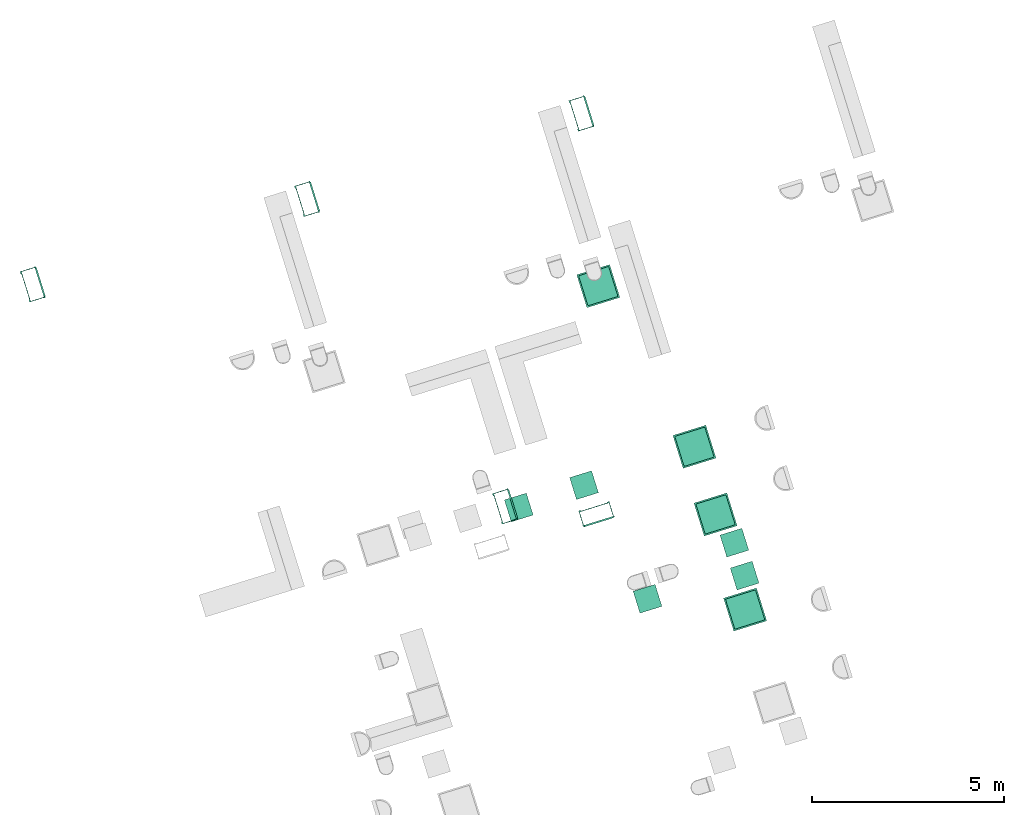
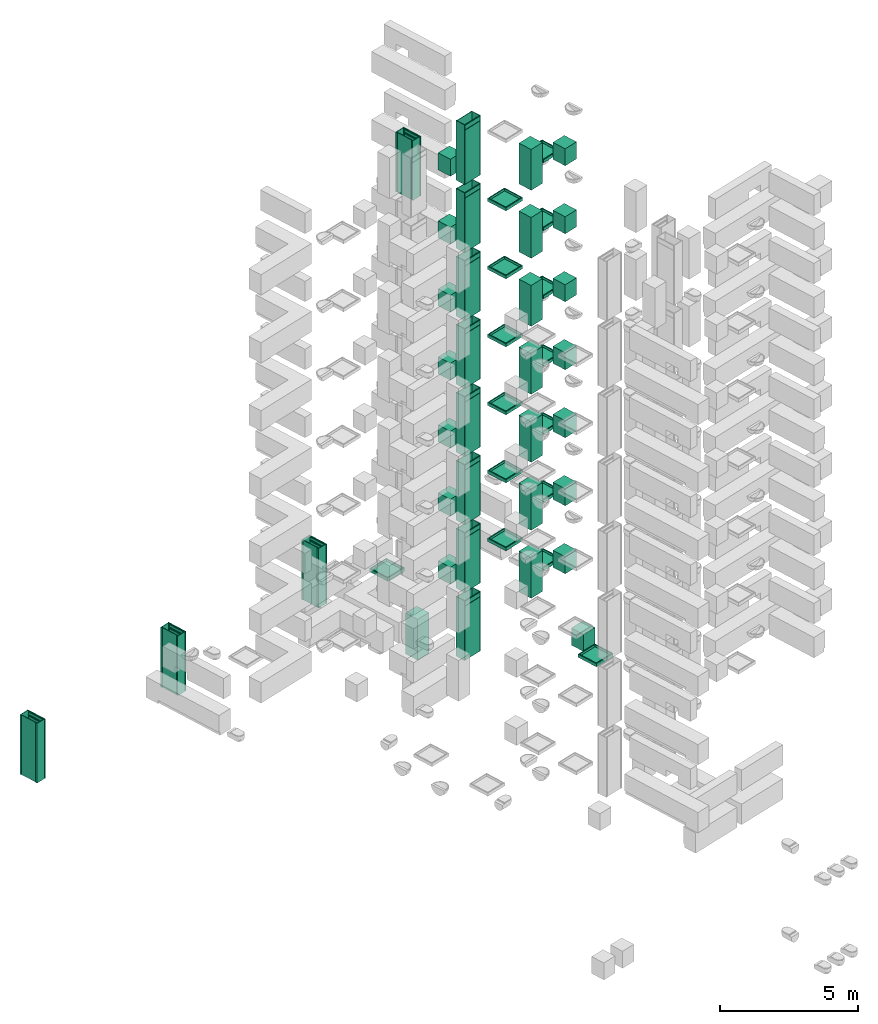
# Not in any storey, part 4 of 17: 15 electric appliances, 15 sanitary terminals, 12 distribution chamber elements, 8 boilers.
"""IFC4 model written with IfcOpenShell, lengths in metres."""

from ifc_helpers import new_model, entity, si_unit, converted_unit, direction, frame, origin, place, context, subcontext, project, indexed_curve, outline, extrude, polygons, source, transform, mapped, material, type_object, type_shapes, element, save


model = new_model("IFC4")

# Units and contexts
model_context = context("Model", 3, precision=1e-05, world=origin(), true_north=direction((6.12323399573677e-17, 1.0)))
body_context = subcontext(model_context, "Body", "Model", "MODEL_VIEW")
ifc_project = project(units=[si_unit("LENGTHUNIT", "METRE"), si_unit("AREAUNIT", "SQUARE_METRE"), converted_unit("PLANEANGLEUNIT", "DEGREE", entity("IfcPlaneAngleMeasure", 0.0174532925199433), si_unit("PLANEANGLEUNIT", "RADIAN"), dimensions=[0, 0, 0, 0, 0, 0, 0]), si_unit("VOLUMEUNIT", "CUBIC_METRE")], contexts=[model_context])

# Distribution chamber elements
ifc_material = material(Name="<Unnamed>")
distribution_chamber_element_type = type_object("IfcDistributionChamberElementType", Name="NLRS_61_GM_UN_Jonka meterkast_gen:Jonka_kast", PredefinedType="METERCHAMBER", material=ifc_material)
shared_shape_1 = source(origin(), body_context, "Body", "SweptSolid", [
    extrude(outline(indexed_curve([(-0.0230000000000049, -0.00925000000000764), (-0.00900000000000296, -0.00925000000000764), (-0.00900000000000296, 0.000749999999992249), (0.00899999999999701, 0.000749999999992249), (0.00899999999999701, -0.00925000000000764), (0.023000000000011, -0.00925000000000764), (0.023000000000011, 0.0177500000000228), (-0.0230000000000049, 0.0177500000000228), (-0.0230000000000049, -0.00925000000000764)], self_intersect=False)), frame((-0.408999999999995, 0.409249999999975, 0.0)), (0.0, 0.0, 1.0), 2.63),
    extrude(outline(indexed_curve([(-0.0230000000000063, -0.00925000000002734), (-0.00900000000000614, -0.00925000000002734), (-0.00900000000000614, 0.00074999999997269), (0.00900000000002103, 0.00074999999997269), (0.00900000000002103, -0.00925000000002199), (0.0229999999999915, -0.00925000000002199), (0.0229999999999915, 0.0177500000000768), (-0.0230000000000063, 0.0177500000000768), (-0.0230000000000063, -0.00925000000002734)], self_intersect=False)), frame((0.409000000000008, 0.409249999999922, 0.0)), (0.0, 0.0, 1.0), 2.63),
    extrude(outline(indexed_curve([(-0.00899999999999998, -0.204999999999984), (0.00899999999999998, -0.204999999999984), (0.00899999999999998, 0.204999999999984), (-0.00899999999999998, 0.204999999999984), (-0.00899999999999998, -0.204999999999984)], self_intersect=False)), frame((-0.408999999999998, 0.204999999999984, 0.0)), (0.0, 0.0, 1.0), 2.63),
    extrude(outline(indexed_curve([(-0.00900000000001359, -0.204999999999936), (0.00900000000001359, -0.204999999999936), (0.00900000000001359, 0.204999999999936), (-0.00900000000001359, 0.204999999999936), (-0.00900000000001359, -0.204999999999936)], self_intersect=False)), frame((0.409000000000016, 0.204999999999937, 0.0)), (0.0, 0.0, 1.0), 2.63),
    extrude(outline(indexed_curve([(-0.00799999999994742, -0.399999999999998), (0.00799999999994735, -0.399999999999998), (0.00799999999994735, 0.399999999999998), (-0.00799999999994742, 0.399999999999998), (-0.00799999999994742, -0.399999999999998)], self_intersect=False)), frame((0.0, 0.434999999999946, 0.00999999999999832), z_axis=(0.0, 0.0, 1.0), x_axis=(0.0, 1.0, 0.0)), (0.0, 0.0, 1.0), 2.39),
    extrude(outline(indexed_curve([(-0.0090000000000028, -0.400000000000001), (0.00899999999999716, -0.400000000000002), (0.0090000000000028, 0.400000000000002), (-0.00899999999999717, 0.400000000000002), (-0.0090000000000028, -0.400000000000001)], self_intersect=False)), frame((0.0, 0.0280000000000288, 0.0), z_axis=(0.0, 0.0, 1.0), x_axis=(0.0, 1.0, 0.0)), (0.0, 0.0, 1.0), 2.63),
    extrude(outline(indexed_curve([(-0.0095, -0.023), (0.0095, -0.023), (0.0095, 0.023), (-0.0095, 0.023), (-0.0095, -0.023)], self_intersect=False)), frame((-0.376999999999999, 0.0095, 0.0), z_axis=(0.0, 0.0, 1.0), x_axis=(0.0, 1.0, 0.0)), (0.0, 0.0, 1.0), 2.63),
    extrude(outline(indexed_curve([(-0.0095, -0.022999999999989), (0.0095, -0.022999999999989), (0.0095, 0.022999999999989), (-0.0095, 0.022999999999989), (-0.0095, -0.022999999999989)], self_intersect=False)), frame((0.377000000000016, 0.00950000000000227, 0.0), z_axis=(0.0, 0.0, 1.0), x_axis=(0.0, 1.0, 0.0)), (0.0, 0.0, 1.0), 2.63),
    extrude(outline(indexed_curve([(-0.00799999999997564, -0.399999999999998), (0.00799999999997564, -0.399999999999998), (0.00799999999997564, 0.399999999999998), (-0.00799999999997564, 0.399999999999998), (-0.00799999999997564, -0.399999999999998)], self_intersect=False)), frame((0.0, 0.434999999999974, 2.41800000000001), z_axis=(0.0, 0.0, 1.0), x_axis=(0.0, 1.0, 0.0)), (0.0, 0.0, 1.0), 0.197000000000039),
    extrude(outline(indexed_curve([(-0.0177500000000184, -0.0230000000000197), (0.00925000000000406, -0.0230000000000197), (0.00925000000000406, -0.00899999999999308), (-0.00074999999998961, -0.00899999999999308), (-0.00074999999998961, 0.00900000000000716), (0.00925000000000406, 0.00900000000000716), (0.00925000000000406, 0.0230000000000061), (-0.0177500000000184, 0.0230000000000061), (-0.0177500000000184, -0.0230000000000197)], self_intersect=False)), frame((-0.386, 0.409249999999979, 2.59200000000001), z_axis=(1.0, 0.0, 0.0), x_axis=(0.0, -1.0, 0.0)), (0.0, 0.0, 1.0), 0.772),
    extrude(outline(indexed_curve([(-0.0177500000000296, -0.0229999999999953), (0.00925000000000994, -0.0229999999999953), (0.00925000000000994, -0.00899999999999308), (-0.000749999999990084, -0.00899999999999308), (-0.000749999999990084, 0.00900000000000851), (0.00925000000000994, 0.00900000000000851), (0.00925000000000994, 0.0229999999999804), (-0.0177500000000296, 0.0229999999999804), (-0.0177500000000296, -0.0229999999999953)], self_intersect=False)), frame((-0.386, 0.40924999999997, 2.40900000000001), z_axis=(1.0, 0.0, 0.0), x_axis=(0.0, -1.0, 0.0)), (0.0, 0.0, 1.0), 0.772),
    extrude(outline(indexed_curve([(-0.0177500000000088, -0.0230000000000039), (0.00925000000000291, -0.0230000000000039), (0.00925000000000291, -0.00899999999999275), (-0.000749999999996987, -0.00899999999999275), (-0.000749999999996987, 0.00899999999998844), (0.00925000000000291, 0.00899999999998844), (0.00925000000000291, 0.0230000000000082), (-0.0177500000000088, 0.0230000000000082), (-0.0177500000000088, -0.0230000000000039)], self_intersect=False)), frame((-0.386, 0.409249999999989, 0.0229999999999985), z_axis=(1.0, 0.0, 0.0), x_axis=(0.0, -1.0, 0.0)), (0.0, 0.0, 1.0), 0.772),
])
type_shapes(distribution_chamber_element_type, [shared_shape_1])
placement_1 = place(None, frame((13.1347999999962, 11.9886000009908, 0.0), z_axis=(0.0, 0.0, 1.0), x_axis=(0.954770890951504, 0.297342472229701, 0.0)))
placement_2 = place(placement_1, origin())
placement_3 = place(placement_2, origin())
placement_4 = place(placement_3, origin())
distribution_chamber_element_1_placement = place(placement_4, frame((57.6250000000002, 31.9569999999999, 0.0), z_axis=(0.0, 0.0, 1.0), x_axis=(0.0, -1.0, 0.0)))
element("IfcDistributionChamberElement", 1, at=distribution_chamber_element_1_placement, type_object=distribution_chamber_element_type, material=ifc_material, Name="NLRS_61_GM_UN_Jonka meterkast_gen:Jonka_kast", ObjectType="NLRS_61_GM_UN_Jonka meterkast_gen:Jonka_kast", PredefinedType="METERCHAMBER", context=body_context, shape_type="MappedRepresentation", body=[
    mapped(shared_shape_1, transform((0.0, 0.0, 0.0), scale=1.0)),
])
placement_5 = place(placement_3, origin())
distribution_chamber_element_2_placement = place(placement_5, frame((65.1250000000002, 31.9569999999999, 0.0), z_axis=(0.0, 0.0, 1.0), x_axis=(0.0, -1.0, 0.0)))
element("IfcDistributionChamberElement", 2, at=distribution_chamber_element_2_placement, type_object=distribution_chamber_element_type, material=ifc_material, Name="NLRS_61_GM_UN_Jonka meterkast_gen:Jonka_kast", ObjectType="NLRS_61_GM_UN_Jonka meterkast_gen:Jonka_kast", PredefinedType="METERCHAMBER", context=body_context, shape_type="MappedRepresentation", body=[
    mapped(shared_shape_1, transform((0.0, 0.0, 0.0), scale=1.0)),
])
placement_6 = place(placement_3, origin())
distribution_chamber_element_3_placement = place(placement_6, frame((72.6250000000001, 31.9569999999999, 0.0), z_axis=(0.0, 0.0, 1.0), x_axis=(0.0, -1.0, 0.0)))
element("IfcDistributionChamberElement", 3, at=distribution_chamber_element_3_placement, type_object=distribution_chamber_element_type, material=ifc_material, Name="NLRS_61_GM_UN_Jonka meterkast_gen:Jonka_kast", ObjectType="NLRS_61_GM_UN_Jonka meterkast_gen:Jonka_kast", PredefinedType="METERCHAMBER", context=body_context, shape_type="MappedRepresentation", body=[
    mapped(shared_shape_1, transform((0.0, 0.0, 0.0), scale=1.0)),
])
placement_7 = place(placement_2, frame((0.0, 0.0, 24.9)))
placement_8 = place(placement_7, origin())
distribution_chamber_element_4_placement = place(placement_8, frame((67.6749999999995, 22.757, 0.0), z_axis=(0.0, 0.0, 1.0), x_axis=(0.0, -1.0, 0.0)))
element("IfcDistributionChamberElement", 4, at=distribution_chamber_element_4_placement, type_object=distribution_chamber_element_type, material=ifc_material, Name="NLRS_61_GM_UN_Jonka meterkast_gen:Jonka_kast", ObjectType="NLRS_61_GM_UN_Jonka meterkast_gen:Jonka_kast", PredefinedType="METERCHAMBER", context=body_context, shape_type="MappedRepresentation", body=[
    mapped(shared_shape_1, transform((0.0, 0.0, 0.0), scale=1.0)),
])
placement_9 = place(placement_2, frame((0.0, 0.0, 6.9)))
placement_10 = place(placement_9, origin())
distribution_chamber_element_5_placement = place(placement_10, frame((70.1069999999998, 22.0750000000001, 0.0), z_axis=(0.0, 0.0, 1.0), x_axis=(-1.0, 0.0, 0.0)))
element("IfcDistributionChamberElement", 5, at=distribution_chamber_element_5_placement, type_object=distribution_chamber_element_type, material=ifc_material, Name="NLRS_61_GM_UN_Jonka meterkast_gen:Jonka_kast", ObjectType="NLRS_61_GM_UN_Jonka meterkast_gen:Jonka_kast", PredefinedType="METERCHAMBER", context=body_context, shape_type="MappedRepresentation", body=[
    mapped(shared_shape_1, transform((0.0, 0.0, 0.0), scale=1.0)),
])
placement_11 = place(placement_2, frame((0.0, 0.0, 9.9)))
placement_12 = place(placement_11, origin())
distribution_chamber_element_6_placement = place(placement_12, frame((70.1069999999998, 22.0750000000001, 0.0), z_axis=(0.0, 0.0, 1.0), x_axis=(-1.0, 0.0, 0.0)))
element("IfcDistributionChamberElement", 6, at=distribution_chamber_element_6_placement, type_object=distribution_chamber_element_type, material=ifc_material, Name="NLRS_61_GM_UN_Jonka meterkast_gen:Jonka_kast", ObjectType="NLRS_61_GM_UN_Jonka meterkast_gen:Jonka_kast", PredefinedType="METERCHAMBER", context=body_context, shape_type="MappedRepresentation", body=[
    mapped(shared_shape_1, transform((0.0, 0.0, 0.0), scale=1.0)),
])
placement_13 = place(placement_2, frame((0.0, 0.0, 12.9)))
placement_14 = place(placement_13, origin())
distribution_chamber_element_7_placement = place(placement_14, frame((70.1069999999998, 22.0750000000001, 0.0), z_axis=(0.0, 0.0, 1.0), x_axis=(-1.0, 0.0, 0.0)))
element("IfcDistributionChamberElement", 7, at=distribution_chamber_element_7_placement, type_object=distribution_chamber_element_type, material=ifc_material, Name="NLRS_61_GM_UN_Jonka meterkast_gen:Jonka_kast", ObjectType="NLRS_61_GM_UN_Jonka meterkast_gen:Jonka_kast", PredefinedType="METERCHAMBER", context=body_context, shape_type="MappedRepresentation", body=[
    mapped(shared_shape_1, transform((0.0, 0.0, 0.0), scale=1.0)),
])
placement_15 = place(placement_2, frame((0.0, 0.0, 15.9)))
placement_16 = place(placement_15, origin())
distribution_chamber_element_8_placement = place(placement_16, frame((70.1069999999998, 22.0750000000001, 0.0), z_axis=(0.0, 0.0, 1.0), x_axis=(-1.0, 0.0, 0.0)))
element("IfcDistributionChamberElement", 8, at=distribution_chamber_element_8_placement, type_object=distribution_chamber_element_type, material=ifc_material, Name="NLRS_61_GM_UN_Jonka meterkast_gen:Jonka_kast", ObjectType="NLRS_61_GM_UN_Jonka meterkast_gen:Jonka_kast", PredefinedType="METERCHAMBER", context=body_context, shape_type="MappedRepresentation", body=[
    mapped(shared_shape_1, transform((0.0, 0.0, 0.0), scale=1.0)),
])
placement_17 = place(placement_2, frame((0.0, 0.0, 18.9)))
placement_18 = place(placement_17, origin())
distribution_chamber_element_9_placement = place(placement_18, frame((70.1069999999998, 22.0750000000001, 0.0), z_axis=(0.0, 0.0, 1.0), x_axis=(-1.0, 0.0, 0.0)))
element("IfcDistributionChamberElement", 9, at=distribution_chamber_element_9_placement, type_object=distribution_chamber_element_type, material=ifc_material, Name="NLRS_61_GM_UN_Jonka meterkast_gen:Jonka_kast", ObjectType="NLRS_61_GM_UN_Jonka meterkast_gen:Jonka_kast", PredefinedType="METERCHAMBER", context=body_context, shape_type="MappedRepresentation", body=[
    mapped(shared_shape_1, transform((0.0, 0.0, 0.0), scale=1.0)),
])
placement_19 = place(placement_2, frame((0.0, 0.0, 21.9)))
placement_20 = place(placement_19, origin())
distribution_chamber_element_10_placement = place(placement_20, frame((70.1069999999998, 22.0750000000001, 0.0), z_axis=(0.0, 0.0, 1.0), x_axis=(-1.0, 0.0, 0.0)))
element("IfcDistributionChamberElement", 10, at=distribution_chamber_element_10_placement, type_object=distribution_chamber_element_type, material=ifc_material, Name="NLRS_61_GM_UN_Jonka meterkast_gen:Jonka_kast", ObjectType="NLRS_61_GM_UN_Jonka meterkast_gen:Jonka_kast", PredefinedType="METERCHAMBER", context=body_context, shape_type="MappedRepresentation", body=[
    mapped(shared_shape_1, transform((0.0, 0.0, 0.0), scale=1.0)),
])
placement_21 = place(placement_7, origin())
distribution_chamber_element_11_placement = place(placement_21, frame((70.1069999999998, 22.0750000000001, 0.0), z_axis=(0.0, 0.0, 1.0), x_axis=(-1.0, 0.0, 0.0)))
element("IfcDistributionChamberElement", 11, at=distribution_chamber_element_11_placement, type_object=distribution_chamber_element_type, material=ifc_material, Name="NLRS_61_GM_UN_Jonka meterkast_gen:Jonka_kast", ObjectType="NLRS_61_GM_UN_Jonka meterkast_gen:Jonka_kast", PredefinedType="METERCHAMBER", context=body_context, shape_type="MappedRepresentation", body=[
    mapped(shared_shape_1, transform((0.0, 0.0, 0.0), scale=1.0)),
])
placement_22 = place(placement_2, frame((0.0, 0.0, 3.9)))
placement_23 = place(placement_22, origin())
distribution_chamber_element_12_placement = place(placement_23, frame((70.1069999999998, 22.0749999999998, 0.0), z_axis=(0.0, 0.0, 1.0), x_axis=(-1.0, 0.0, 0.0)))
element("IfcDistributionChamberElement", 12, at=distribution_chamber_element_12_placement, type_object=distribution_chamber_element_type, material=ifc_material, Name="NLRS_61_GM_UN_Jonka meterkast_gen:Jonka_kast", ObjectType="NLRS_61_GM_UN_Jonka meterkast_gen:Jonka_kast", PredefinedType="METERCHAMBER", context=body_context, shape_type="MappedRepresentation", body=[
    mapped(shared_shape_1, transform((0.0, 0.0, 0.0), scale=1.0)),
])

# Boilers
boiler_type_1 = type_object("IfcBoilerType", Name="NLRS_51_ME_WB_warmtepomp_gen:generiek", PredefinedType="NOTDEFINED", material=ifc_material)
shared_shape_2 = source(origin(), body_context, "Body", "SweptSolid", [
    extrude(outline(indexed_curve([(-0.300000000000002, -0.299999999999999), (0.300000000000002, -0.299999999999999), (0.300000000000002, 0.299999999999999), (-0.300000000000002, 0.299999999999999), (-0.300000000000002, -0.299999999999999)], self_intersect=False)), frame((0.124999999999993, -0.350000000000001, 0.6), z_axis=(0.0, 0.0, 1.0), x_axis=(0.0, 1.0, 0.0)), (0.0, 0.0, 1.0), 1.8),
])
type_shapes(boiler_type_1, [shared_shape_2])
placement_24 = place(placement_9, origin())
boiler_1_placement = place(placement_24, frame((71.0749999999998, 19.4749999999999, 0.0), z_axis=(0.0, 0.0, 1.0), x_axis=(0.0, -1.0, 0.0)))
element("IfcBoiler", 13, at=boiler_1_placement, type_object=boiler_type_1, material=ifc_material, Name="NLRS_51_ME_WB_warmtepomp_gen:generiek", ObjectType="NLRS_51_ME_WB_warmtepomp_gen:generiek", PredefinedType="NOTDEFINED", context=body_context, shape_type="MappedRepresentation", body=[
    mapped(shared_shape_2, transform((0.0, 0.0, 0.0), scale=1.0)),
])
placement_25 = place(placement_11, origin())
boiler_2_placement = place(placement_25, frame((71.0749999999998, 19.4749999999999, 0.0), z_axis=(0.0, 0.0, 1.0), x_axis=(0.0, -1.0, 0.0)))
element("IfcBoiler", 14, at=boiler_2_placement, type_object=boiler_type_1, material=ifc_material, Name="NLRS_51_ME_WB_warmtepomp_gen:generiek", ObjectType="NLRS_51_ME_WB_warmtepomp_gen:generiek", PredefinedType="NOTDEFINED", context=body_context, shape_type="MappedRepresentation", body=[
    mapped(shared_shape_2, transform((0.0, 0.0, 0.0), scale=1.0)),
])
placement_26 = place(placement_13, origin())
boiler_3_placement = place(placement_26, frame((71.0749999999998, 19.4749999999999, 0.0), z_axis=(0.0, 0.0, 1.0), x_axis=(0.0, -1.0, 0.0)))
element("IfcBoiler", 15, at=boiler_3_placement, type_object=boiler_type_1, material=ifc_material, Name="NLRS_51_ME_WB_warmtepomp_gen:generiek", ObjectType="NLRS_51_ME_WB_warmtepomp_gen:generiek", PredefinedType="NOTDEFINED", context=body_context, shape_type="MappedRepresentation", body=[
    mapped(shared_shape_2, transform((0.0, 0.0, 0.0), scale=1.0)),
])
placement_27 = place(placement_15, origin())
boiler_4_placement = place(placement_27, frame((71.0749999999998, 19.4749999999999, 0.0), z_axis=(0.0, 0.0, 1.0), x_axis=(0.0, -1.0, 0.0)))
element("IfcBoiler", 16, at=boiler_4_placement, type_object=boiler_type_1, material=ifc_material, Name="NLRS_51_ME_WB_warmtepomp_gen:generiek", ObjectType="NLRS_51_ME_WB_warmtepomp_gen:generiek", PredefinedType="NOTDEFINED", context=body_context, shape_type="MappedRepresentation", body=[
    mapped(shared_shape_2, transform((0.0, 0.0, 0.0), scale=1.0)),
])
placement_28 = place(placement_17, origin())
boiler_5_placement = place(placement_28, frame((71.0749999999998, 19.4749999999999, 0.0), z_axis=(0.0, 0.0, 1.0), x_axis=(0.0, -1.0, 0.0)))
element("IfcBoiler", 17, at=boiler_5_placement, type_object=boiler_type_1, material=ifc_material, Name="NLRS_51_ME_WB_warmtepomp_gen:generiek", ObjectType="NLRS_51_ME_WB_warmtepomp_gen:generiek", PredefinedType="NOTDEFINED", context=body_context, shape_type="MappedRepresentation", body=[
    mapped(shared_shape_2, transform((0.0, 0.0, 0.0), scale=1.0)),
])
placement_29 = place(placement_19, origin())
boiler_6_placement = place(placement_29, frame((71.0749999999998, 19.4749999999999, 0.0), z_axis=(0.0, 0.0, 1.0), x_axis=(0.0, -1.0, 0.0)))
element("IfcBoiler", 18, at=boiler_6_placement, type_object=boiler_type_1, material=ifc_material, Name="NLRS_51_ME_WB_warmtepomp_gen:generiek", ObjectType="NLRS_51_ME_WB_warmtepomp_gen:generiek", PredefinedType="NOTDEFINED", context=body_context, shape_type="MappedRepresentation", body=[
    mapped(shared_shape_2, transform((0.0, 0.0, 0.0), scale=1.0)),
])
placement_30 = place(placement_7, origin())
boiler_7_placement = place(placement_30, frame((71.0749999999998, 19.4749999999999, 0.0), z_axis=(0.0, 0.0, 1.0), x_axis=(0.0, -1.0, 0.0)))
element("IfcBoiler", 19, at=boiler_7_placement, type_object=boiler_type_1, material=ifc_material, Name="NLRS_51_ME_WB_warmtepomp_gen:generiek", ObjectType="NLRS_51_ME_WB_warmtepomp_gen:generiek", PredefinedType="NOTDEFINED", context=body_context, shape_type="MappedRepresentation", body=[
    mapped(shared_shape_2, transform((0.0, 0.0, 0.0), scale=1.0)),
])

# Sanitary terminals
sanitary_terminal_type_1 = type_object("IfcSanitaryTerminalType", Name="NLRS_74_PF_UN_douche_gen:douchebak 900x900mm", PredefinedType="NOTDEFINED", material=ifc_material)
shared_shape_3 = source(origin(), body_context, "Body", "Tessellation", [
    polygons([(1.65924045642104, -0.403499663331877, -6.76), (1.65924045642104, 0.496500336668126, -6.76), (0.759240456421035, 0.496500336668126, -6.76), (0.759240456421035, -0.403499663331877, -6.76), (0.799240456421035, -0.36349966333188, -6.76), (0.799240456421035, 0.456500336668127, -6.76), (1.61924045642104, 0.456500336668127, -6.76), (1.61924045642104, -0.36349966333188, -6.76), (1.65924045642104, -0.403499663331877, -6.9), (0.759240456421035, -0.403499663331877, -6.9), (0.759240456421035, 0.496500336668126, -6.9), (1.65924045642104, 0.496500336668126, -6.9), (1.61924045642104, -0.36349966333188, -6.86), (1.61924045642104, 0.456500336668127, -6.86), (0.799240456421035, 0.456500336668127, -6.86), (0.799240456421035, -0.36349966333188, -6.86)], [[[1, 2, 3, 4], [5, 6, 7, 8]], [[9, 10, 11, 12]], [[4, 10, 9, 1]], [[3, 11, 10, 4]], [[2, 12, 11, 3]], [[1, 9, 12, 2]], [[13, 14, 15, 16]], [[16, 5, 8, 13]], [[15, 6, 5, 16]], [[14, 7, 6, 15]], [[13, 8, 7, 14]]], closed=True),
])
type_shapes(sanitary_terminal_type_1, [shared_shape_3])
placement_31 = place(placement_22, origin())
sanitary_terminal_1_placement = place(placement_31, frame((71.9715003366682, 26.3157595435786, 6.9), z_axis=(0.0, 0.0, 1.0), x_axis=(0.0, 1.0, 0.0)))
element("IfcSanitaryTerminal", 20, at=sanitary_terminal_1_placement, type_object=sanitary_terminal_type_1, material=ifc_material, Name="NLRS_74_PF_UN_douche_gen:douchebak 900x900mm", ObjectType="NLRS_74_PF_UN_douche_gen:douchebak 900x900mm", PredefinedType="NOTDEFINED", context=body_context, shape_type="MappedRepresentation", body=[
    mapped(shared_shape_3, transform((0.0, 0.0, 0.0), scale=1.0)),
])
placement_32 = place(placement_9, origin())
sanitary_terminal_2_placement = place(placement_32, frame((74.2842404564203, 22.8215003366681, 6.9), z_axis=(0.0, 0.0, 1.0), x_axis=(-1.0, 0.0, 0.0)))
element("IfcSanitaryTerminal", 21, at=sanitary_terminal_2_placement, type_object=sanitary_terminal_type_1, material=ifc_material, Name="NLRS_74_PF_UN_douche_gen:douchebak 900x900mm", ObjectType="NLRS_74_PF_UN_douche_gen:douchebak 900x900mm", PredefinedType="NOTDEFINED", context=body_context, shape_type="MappedRepresentation", body=[
    mapped(shared_shape_3, transform((0.0, 0.0, 0.0), scale=1.0)),
])
placement_33 = place(placement_11, origin())
sanitary_terminal_3_placement = place(placement_33, frame((74.2842404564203, 22.8215003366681, 6.9), z_axis=(0.0, 0.0, 1.0), x_axis=(-1.0, 0.0, 0.0)))
element("IfcSanitaryTerminal", 22, at=sanitary_terminal_3_placement, type_object=sanitary_terminal_type_1, material=ifc_material, Name="NLRS_74_PF_UN_douche_gen:douchebak 900x900mm", ObjectType="NLRS_74_PF_UN_douche_gen:douchebak 900x900mm", PredefinedType="NOTDEFINED", context=body_context, shape_type="MappedRepresentation", body=[
    mapped(shared_shape_3, transform((0.0, 0.0, 0.0), scale=1.0)),
])
placement_34 = place(placement_13, origin())
sanitary_terminal_4_placement = place(placement_34, frame((74.2842404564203, 22.8215003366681, 6.9), z_axis=(0.0, 0.0, 1.0), x_axis=(-1.0, 0.0, 0.0)))
element("IfcSanitaryTerminal", 23, at=sanitary_terminal_4_placement, type_object=sanitary_terminal_type_1, material=ifc_material, Name="NLRS_74_PF_UN_douche_gen:douchebak 900x900mm", ObjectType="NLRS_74_PF_UN_douche_gen:douchebak 900x900mm", PredefinedType="NOTDEFINED", context=body_context, shape_type="MappedRepresentation", body=[
    mapped(shared_shape_3, transform((0.0, 0.0, 0.0), scale=1.0)),
])
placement_35 = place(placement_15, origin())
sanitary_terminal_5_placement = place(placement_35, frame((74.2842404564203, 22.8215003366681, 6.9), z_axis=(0.0, 0.0, 1.0), x_axis=(-1.0, 0.0, 0.0)))
element("IfcSanitaryTerminal", 24, at=sanitary_terminal_5_placement, type_object=sanitary_terminal_type_1, material=ifc_material, Name="NLRS_74_PF_UN_douche_gen:douchebak 900x900mm", ObjectType="NLRS_74_PF_UN_douche_gen:douchebak 900x900mm", PredefinedType="NOTDEFINED", context=body_context, shape_type="MappedRepresentation", body=[
    mapped(shared_shape_3, transform((0.0, 0.0, 0.0), scale=1.0)),
])
placement_36 = place(placement_17, origin())
sanitary_terminal_6_placement = place(placement_36, frame((74.2842404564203, 22.8215003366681, 6.9), z_axis=(0.0, 0.0, 1.0), x_axis=(-1.0, 0.0, 0.0)))
element("IfcSanitaryTerminal", 25, at=sanitary_terminal_6_placement, type_object=sanitary_terminal_type_1, material=ifc_material, Name="NLRS_74_PF_UN_douche_gen:douchebak 900x900mm", ObjectType="NLRS_74_PF_UN_douche_gen:douchebak 900x900mm", PredefinedType="NOTDEFINED", context=body_context, shape_type="MappedRepresentation", body=[
    mapped(shared_shape_3, transform((0.0, 0.0, 0.0), scale=1.0)),
])
placement_37 = place(placement_19, origin())
sanitary_terminal_7_placement = place(placement_37, frame((74.2842404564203, 22.8215003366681, 6.9), z_axis=(0.0, 0.0, 1.0), x_axis=(-1.0, 0.0, 0.0)))
element("IfcSanitaryTerminal", 26, at=sanitary_terminal_7_placement, type_object=sanitary_terminal_type_1, material=ifc_material, Name="NLRS_74_PF_UN_douche_gen:douchebak 900x900mm", ObjectType="NLRS_74_PF_UN_douche_gen:douchebak 900x900mm", PredefinedType="NOTDEFINED", context=body_context, shape_type="MappedRepresentation", body=[
    mapped(shared_shape_3, transform((0.0, 0.0, 0.0), scale=1.0)),
])
placement_38 = place(placement_9, origin())
sanitary_terminal_8_placement = place(placement_38, frame((74.2842404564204, 20.9715003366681, 6.9), z_axis=(0.0, 0.0, 1.0), x_axis=(-1.0, 0.0, 0.0)))
element("IfcSanitaryTerminal", 27, at=sanitary_terminal_8_placement, type_object=sanitary_terminal_type_1, material=ifc_material, Name="NLRS_74_PF_UN_douche_gen:douchebak 900x900mm", ObjectType="NLRS_74_PF_UN_douche_gen:douchebak 900x900mm", PredefinedType="NOTDEFINED", context=body_context, shape_type="MappedRepresentation", body=[
    mapped(shared_shape_3, transform((0.0, 0.0, 0.0), scale=1.0)),
])
placement_39 = place(placement_11, origin())
sanitary_terminal_9_placement = place(placement_39, frame((74.2842404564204, 20.9715003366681, 6.9), z_axis=(0.0, 0.0, 1.0), x_axis=(-1.0, 0.0, 0.0)))
element("IfcSanitaryTerminal", 28, at=sanitary_terminal_9_placement, type_object=sanitary_terminal_type_1, material=ifc_material, Name="NLRS_74_PF_UN_douche_gen:douchebak 900x900mm", ObjectType="NLRS_74_PF_UN_douche_gen:douchebak 900x900mm", PredefinedType="NOTDEFINED", context=body_context, shape_type="MappedRepresentation", body=[
    mapped(shared_shape_3, transform((0.0, 0.0, 0.0), scale=1.0)),
])
placement_40 = place(placement_13, origin())
sanitary_terminal_10_placement = place(placement_40, frame((74.2842404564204, 20.9715003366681, 6.9), z_axis=(0.0, 0.0, 1.0), x_axis=(-1.0, 0.0, 0.0)))
element("IfcSanitaryTerminal", 29, at=sanitary_terminal_10_placement, type_object=sanitary_terminal_type_1, material=ifc_material, Name="NLRS_74_PF_UN_douche_gen:douchebak 900x900mm", ObjectType="NLRS_74_PF_UN_douche_gen:douchebak 900x900mm", PredefinedType="NOTDEFINED", context=body_context, shape_type="MappedRepresentation", body=[
    mapped(shared_shape_3, transform((0.0, 0.0, 0.0), scale=1.0)),
])
placement_41 = place(placement_15, origin())
sanitary_terminal_11_placement = place(placement_41, frame((74.2842404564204, 20.9715003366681, 6.9), z_axis=(0.0, 0.0, 1.0), x_axis=(-1.0, 0.0, 0.0)))
element("IfcSanitaryTerminal", 30, at=sanitary_terminal_11_placement, type_object=sanitary_terminal_type_1, material=ifc_material, Name="NLRS_74_PF_UN_douche_gen:douchebak 900x900mm", ObjectType="NLRS_74_PF_UN_douche_gen:douchebak 900x900mm", PredefinedType="NOTDEFINED", context=body_context, shape_type="MappedRepresentation", body=[
    mapped(shared_shape_3, transform((0.0, 0.0, 0.0), scale=1.0)),
])
placement_42 = place(placement_17, origin())
sanitary_terminal_12_placement = place(placement_42, frame((74.2842404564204, 20.9715003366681, 6.9), z_axis=(0.0, 0.0, 1.0), x_axis=(-1.0, 0.0, 0.0)))
element("IfcSanitaryTerminal", 31, at=sanitary_terminal_12_placement, type_object=sanitary_terminal_type_1, material=ifc_material, Name="NLRS_74_PF_UN_douche_gen:douchebak 900x900mm", ObjectType="NLRS_74_PF_UN_douche_gen:douchebak 900x900mm", PredefinedType="NOTDEFINED", context=body_context, shape_type="MappedRepresentation", body=[
    mapped(shared_shape_3, transform((0.0, 0.0, 0.0), scale=1.0)),
])
placement_43 = place(placement_19, origin())
sanitary_terminal_13_placement = place(placement_43, frame((74.2842404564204, 20.9715003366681, 6.9), z_axis=(0.0, 0.0, 1.0), x_axis=(-1.0, 0.0, 0.0)))
element("IfcSanitaryTerminal", 32, at=sanitary_terminal_13_placement, type_object=sanitary_terminal_type_1, material=ifc_material, Name="NLRS_74_PF_UN_douche_gen:douchebak 900x900mm", ObjectType="NLRS_74_PF_UN_douche_gen:douchebak 900x900mm", PredefinedType="NOTDEFINED", context=body_context, shape_type="MappedRepresentation", body=[
    mapped(shared_shape_3, transform((0.0, 0.0, 0.0), scale=1.0)),
])
placement_44 = place(placement_7, origin())
sanitary_terminal_14_placement = place(placement_44, frame((74.2842404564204, 20.9715003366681, 6.9), z_axis=(0.0, 0.0, 1.0), x_axis=(-1.0, 0.0, 0.0)))
element("IfcSanitaryTerminal", 33, at=sanitary_terminal_14_placement, type_object=sanitary_terminal_type_1, material=ifc_material, Name="NLRS_74_PF_UN_douche_gen:douchebak 900x900mm", ObjectType="NLRS_74_PF_UN_douche_gen:douchebak 900x900mm", PredefinedType="NOTDEFINED", context=body_context, shape_type="MappedRepresentation", body=[
    mapped(shared_shape_3, transform((0.0, 0.0, 0.0), scale=1.0)),
])

# Electric appliances
electric_appliance_type_1 = type_object("IfcElectricApplianceType", Name="NLRS_85_SE_UN_opstelplaats wasmachine_gen:wasdroger", PredefinedType="TUMBLEDRYER", material=ifc_material)
shared_shape_4 = source(origin(), body_context, "Body", "SweptSolid", [
    extrude(outline(indexed_curve([(-0.3, -0.299999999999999), (0.3, -0.299999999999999), (0.3, 0.299999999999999), (-0.3, 0.299999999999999), (-0.3, -0.299999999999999)], self_intersect=False)), frame((0.0, -0.349999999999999, 0.0), z_axis=(0.0, 0.0, 1.0), x_axis=(-1.0, 0.0, 0.0)), (0.0, 0.0, 1.0), 0.75026866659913),
])
type_shapes(electric_appliance_type_1, [shared_shape_4])
placement_45 = place(placement_22, origin())
electric_appliance_1_placement = place(placement_45, frame((73.3249999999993, 19.5249999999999, 0.0)))
element("IfcElectricAppliance", 34, at=electric_appliance_1_placement, type_object=electric_appliance_type_1, material=ifc_material, Name="NLRS_85_SE_UN_opstelplaats wasmachine_gen:wasdroger", ObjectType="NLRS_85_SE_UN_opstelplaats wasmachine_gen:wasdroger", PredefinedType="TUMBLEDRYER", context=body_context, shape_type="MappedRepresentation", body=[
    mapped(shared_shape_4, transform((0.0, 0.0, 0.0), scale=1.0)),
])
electric_appliance_type_2 = type_object("IfcElectricApplianceType", Name="NLRS_85_SE_UN_opstelplaats wasmachine_gen:wasdroger", PredefinedType="TUMBLEDRYER", material=ifc_material)
shared_shape_5 = source(origin(), body_context, "Body", "SweptSolid", [
    extrude(outline(indexed_curve([(-0.299999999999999, -0.3), (0.299999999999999, -0.3), (0.299999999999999, 0.3), (-0.299999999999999, 0.3), (-0.299999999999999, -0.3)], self_intersect=False)), frame((0.0, 0.349999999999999, 0.0), z_axis=(0.0, 0.0, 1.0), x_axis=(0.0, 1.0, 0.0)), (0.0, 0.0, 1.0), 0.75026866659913),
])
type_shapes(electric_appliance_type_2, [shared_shape_5])
placement_46 = place(placement_9, origin())
electric_appliance_2_placement = place(placement_46, frame((70.3749999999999, 22.6749999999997, 0.0), z_axis=(0.0, 0.0, 1.0), x_axis=(0.0, 1.0, 0.0)))
element("IfcElectricAppliance", 35, at=electric_appliance_2_placement, type_object=electric_appliance_type_2, material=ifc_material, Name="NLRS_85_SE_UN_opstelplaats wasmachine_gen:wasdroger", ObjectType="NLRS_85_SE_UN_opstelplaats wasmachine_gen:wasdroger", PredefinedType="TUMBLEDRYER", context=body_context, shape_type="MappedRepresentation", body=[
    mapped(shared_shape_5, transform((0.0, 0.0, 0.0), scale=1.0)),
])
placement_47 = place(placement_11, origin())
electric_appliance_3_placement = place(placement_47, frame((70.3749999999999, 22.6749999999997, 0.0), z_axis=(0.0, 0.0, 1.0), x_axis=(0.0, 1.0, 0.0)))
element("IfcElectricAppliance", 36, at=electric_appliance_3_placement, type_object=electric_appliance_type_2, material=ifc_material, Name="NLRS_85_SE_UN_opstelplaats wasmachine_gen:wasdroger", ObjectType="NLRS_85_SE_UN_opstelplaats wasmachine_gen:wasdroger", PredefinedType="TUMBLEDRYER", context=body_context, shape_type="MappedRepresentation", body=[
    mapped(shared_shape_5, transform((0.0, 0.0, 0.0), scale=1.0)),
])
placement_48 = place(placement_13, origin())
electric_appliance_4_placement = place(placement_48, frame((70.3749999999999, 22.6749999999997, 0.0), z_axis=(0.0, 0.0, 1.0), x_axis=(0.0, 1.0, 0.0)))
element("IfcElectricAppliance", 37, at=electric_appliance_4_placement, type_object=electric_appliance_type_2, material=ifc_material, Name="NLRS_85_SE_UN_opstelplaats wasmachine_gen:wasdroger", ObjectType="NLRS_85_SE_UN_opstelplaats wasmachine_gen:wasdroger", PredefinedType="TUMBLEDRYER", context=body_context, shape_type="MappedRepresentation", body=[
    mapped(shared_shape_5, transform((0.0, 0.0, 0.0), scale=1.0)),
])
placement_49 = place(placement_15, origin())
electric_appliance_5_placement = place(placement_49, frame((70.3749999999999, 22.6749999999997, 0.0), z_axis=(0.0, 0.0, 1.0), x_axis=(0.0, 1.0, 0.0)))
element("IfcElectricAppliance", 38, at=electric_appliance_5_placement, type_object=electric_appliance_type_2, material=ifc_material, Name="NLRS_85_SE_UN_opstelplaats wasmachine_gen:wasdroger", ObjectType="NLRS_85_SE_UN_opstelplaats wasmachine_gen:wasdroger", PredefinedType="TUMBLEDRYER", context=body_context, shape_type="MappedRepresentation", body=[
    mapped(shared_shape_5, transform((0.0, 0.0, 0.0), scale=1.0)),
])
placement_50 = place(placement_17, origin())
electric_appliance_6_placement = place(placement_50, frame((70.3749999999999, 22.6749999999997, 0.0), z_axis=(0.0, 0.0, 1.0), x_axis=(0.0, 1.0, 0.0)))
element("IfcElectricAppliance", 39, at=electric_appliance_6_placement, type_object=electric_appliance_type_2, material=ifc_material, Name="NLRS_85_SE_UN_opstelplaats wasmachine_gen:wasdroger", ObjectType="NLRS_85_SE_UN_opstelplaats wasmachine_gen:wasdroger", PredefinedType="TUMBLEDRYER", context=body_context, shape_type="MappedRepresentation", body=[
    mapped(shared_shape_5, transform((0.0, 0.0, 0.0), scale=1.0)),
])
placement_51 = place(placement_19, origin())
electric_appliance_7_placement = place(placement_51, frame((70.3749999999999, 22.6749999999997, 0.0), z_axis=(0.0, 0.0, 1.0), x_axis=(0.0, 1.0, 0.0)))
element("IfcElectricAppliance", 40, at=electric_appliance_7_placement, type_object=electric_appliance_type_2, material=ifc_material, Name="NLRS_85_SE_UN_opstelplaats wasmachine_gen:wasdroger", ObjectType="NLRS_85_SE_UN_opstelplaats wasmachine_gen:wasdroger", PredefinedType="TUMBLEDRYER", context=body_context, shape_type="MappedRepresentation", body=[
    mapped(shared_shape_5, transform((0.0, 0.0, 0.0), scale=1.0)),
])
placement_52 = place(placement_7, origin())
electric_appliance_8_placement = place(placement_52, frame((70.3749999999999, 22.6749999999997, 0.0), z_axis=(0.0, 0.0, 1.0), x_axis=(0.0, 1.0, 0.0)))
element("IfcElectricAppliance", 41, at=electric_appliance_8_placement, type_object=electric_appliance_type_2, material=ifc_material, Name="NLRS_85_SE_UN_opstelplaats wasmachine_gen:wasdroger", ObjectType="NLRS_85_SE_UN_opstelplaats wasmachine_gen:wasdroger", PredefinedType="TUMBLEDRYER", context=body_context, shape_type="MappedRepresentation", body=[
    mapped(shared_shape_5, transform((0.0, 0.0, 0.0), scale=1.0)),
])
placement_53 = place(placement_9, origin())
electric_appliance_9_placement = place(placement_53, frame((73.3249999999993, 19.7249999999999, 0.0)))
element("IfcElectricAppliance", 42, at=electric_appliance_9_placement, type_object=electric_appliance_type_2, material=ifc_material, Name="NLRS_85_SE_UN_opstelplaats wasmachine_gen:wasdroger", ObjectType="NLRS_85_SE_UN_opstelplaats wasmachine_gen:wasdroger", PredefinedType="TUMBLEDRYER", context=body_context, shape_type="MappedRepresentation", body=[
    mapped(shared_shape_5, transform((0.0, 0.0, 0.0), scale=1.0)),
])
placement_54 = place(placement_11, origin())
electric_appliance_10_placement = place(placement_54, frame((73.3249999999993, 19.725, 0.0)))
element("IfcElectricAppliance", 43, at=electric_appliance_10_placement, type_object=electric_appliance_type_2, material=ifc_material, Name="NLRS_85_SE_UN_opstelplaats wasmachine_gen:wasdroger", ObjectType="NLRS_85_SE_UN_opstelplaats wasmachine_gen:wasdroger", PredefinedType="TUMBLEDRYER", context=body_context, shape_type="MappedRepresentation", body=[
    mapped(shared_shape_5, transform((0.0, 0.0, 0.0), scale=1.0)),
])
placement_55 = place(placement_13, origin())
electric_appliance_11_placement = place(placement_55, frame((73.3249999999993, 19.725, 0.0)))
element("IfcElectricAppliance", 44, at=electric_appliance_11_placement, type_object=electric_appliance_type_2, material=ifc_material, Name="NLRS_85_SE_UN_opstelplaats wasmachine_gen:wasdroger", ObjectType="NLRS_85_SE_UN_opstelplaats wasmachine_gen:wasdroger", PredefinedType="TUMBLEDRYER", context=body_context, shape_type="MappedRepresentation", body=[
    mapped(shared_shape_5, transform((0.0, 0.0, 0.0), scale=1.0)),
])
placement_56 = place(placement_15, origin())
electric_appliance_12_placement = place(placement_56, frame((73.3249999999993, 19.725, 0.0)))
element("IfcElectricAppliance", 45, at=electric_appliance_12_placement, type_object=electric_appliance_type_2, material=ifc_material, Name="NLRS_85_SE_UN_opstelplaats wasmachine_gen:wasdroger", ObjectType="NLRS_85_SE_UN_opstelplaats wasmachine_gen:wasdroger", PredefinedType="TUMBLEDRYER", context=body_context, shape_type="MappedRepresentation", body=[
    mapped(shared_shape_5, transform((0.0, 0.0, 0.0), scale=1.0)),
])
placement_57 = place(placement_17, origin())
electric_appliance_13_placement = place(placement_57, frame((73.3249999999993, 19.725, 0.0)))
element("IfcElectricAppliance", 46, at=electric_appliance_13_placement, type_object=electric_appliance_type_2, material=ifc_material, Name="NLRS_85_SE_UN_opstelplaats wasmachine_gen:wasdroger", ObjectType="NLRS_85_SE_UN_opstelplaats wasmachine_gen:wasdroger", PredefinedType="TUMBLEDRYER", context=body_context, shape_type="MappedRepresentation", body=[
    mapped(shared_shape_5, transform((0.0, 0.0, 0.0), scale=1.0)),
])
placement_58 = place(placement_19, origin())
electric_appliance_14_placement = place(placement_58, frame((73.3249999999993, 19.725, 0.0)))
element("IfcElectricAppliance", 47, at=electric_appliance_14_placement, type_object=electric_appliance_type_2, material=ifc_material, Name="NLRS_85_SE_UN_opstelplaats wasmachine_gen:wasdroger", ObjectType="NLRS_85_SE_UN_opstelplaats wasmachine_gen:wasdroger", PredefinedType="TUMBLEDRYER", context=body_context, shape_type="MappedRepresentation", body=[
    mapped(shared_shape_5, transform((0.0, 0.0, 0.0), scale=1.0)),
])
placement_59 = place(placement_7, origin())
electric_appliance_15_placement = place(placement_59, frame((73.3249999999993, 19.725, 0.0)))
element("IfcElectricAppliance", 48, at=electric_appliance_15_placement, type_object=electric_appliance_type_2, material=ifc_material, Name="NLRS_85_SE_UN_opstelplaats wasmachine_gen:wasdroger", ObjectType="NLRS_85_SE_UN_opstelplaats wasmachine_gen:wasdroger", PredefinedType="TUMBLEDRYER", context=body_context, shape_type="MappedRepresentation", body=[
    mapped(shared_shape_5, transform((0.0, 0.0, 0.0), scale=1.0)),
])

# Sanitary terminal
sanitary_terminal_type_2 = type_object("IfcSanitaryTerminalType", Name="NLRS_74_PF_UN_douche_gen:douchebak 900x900mm", PredefinedType="NOTDEFINED", material=ifc_material)
shared_shape_6 = source(origin(), body_context, "Body", "Tessellation", [
    polygons([(1.65924045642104, 0.403499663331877, -3.76), (0.759240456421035, 0.403499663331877, -3.76), (0.759240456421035, -0.496500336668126, -3.76), (1.65924045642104, -0.496500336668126, -3.76), (0.799240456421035, 0.36349966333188, -3.76), (1.61924045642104, 0.36349966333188, -3.76), (1.61924045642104, -0.456500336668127, -3.76), (0.799240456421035, -0.456500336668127, -3.76), (1.65924045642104, 0.403499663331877, -3.9), (1.65924045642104, -0.496500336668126, -3.9), (0.759240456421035, -0.496500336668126, -3.9), (0.759240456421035, 0.403499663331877, -3.9), (1.61924045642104, 0.36349966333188, -3.86), (0.799240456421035, 0.36349966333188, -3.86), (0.799240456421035, -0.456500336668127, -3.86), (1.61924045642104, -0.456500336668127, -3.86)], [[[1, 2, 3, 4], [5, 6, 7, 8]], [[9, 10, 11, 12]], [[2, 1, 9, 12]], [[3, 2, 12, 11]], [[4, 3, 11, 10]], [[1, 4, 10, 9]], [[13, 14, 15, 16]], [[14, 13, 6, 5]], [[15, 14, 5, 8]], [[16, 15, 8, 7]], [[13, 16, 7, 6]]], closed=True),
])
type_shapes(sanitary_terminal_type_2, [shared_shape_6])
placement_60 = place(placement_22, origin())
sanitary_terminal_15_placement = place(placement_60, frame((74.2842404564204, 18.2784996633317, 3.9), z_axis=(0.0, 0.0, 1.0), x_axis=(-1.0, 0.0, 0.0)))
element("IfcSanitaryTerminal", 49, at=sanitary_terminal_15_placement, type_object=sanitary_terminal_type_2, material=ifc_material, Name="NLRS_74_PF_UN_douche_gen:douchebak 900x900mm", ObjectType="NLRS_74_PF_UN_douche_gen:douchebak 900x900mm", PredefinedType="NOTDEFINED", context=body_context, shape_type="MappedRepresentation", body=[
    mapped(shared_shape_6, transform((0.0, 0.0, 0.0), scale=1.0)),
])

# Boiler
boiler_type_2 = type_object("IfcBoilerType", Name="NLRS_51_ME_WB_warmtepomp_gen:generiek", PredefinedType="NOTDEFINED", material=ifc_material)
shared_shape_7 = source(origin(), body_context, "Body", "SweptSolid", [
    extrude(outline(indexed_curve([(-0.299999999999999, -0.300000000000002), (0.299999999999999, -0.300000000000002), (0.299999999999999, 0.300000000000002), (-0.299999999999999, 0.300000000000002), (-0.299999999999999, -0.300000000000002)], self_intersect=False)), frame((0.124999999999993, 0.425000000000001, 0.6), z_axis=(0.0, 0.0, 1.0), x_axis=(-1.0, 0.0, 0.0)), (0.0, 0.0, 1.0), 1.8),
])
type_shapes(boiler_type_2, [shared_shape_7])
placement_61 = place(placement_22, origin())
boiler_8_placement = place(placement_61, frame((68.0999999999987, 22.1999999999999, 0.0)))
element("IfcBoiler", 50, at=boiler_8_placement, type_object=boiler_type_2, material=ifc_material, Name="NLRS_51_ME_WB_warmtepomp_gen:generiek", ObjectType="NLRS_51_ME_WB_warmtepomp_gen:generiek", PredefinedType="NOTDEFINED", context=body_context, shape_type="MappedRepresentation", body=[
    mapped(shared_shape_7, transform((0.0, 0.0, 0.0), scale=1.0)),
])

save(model, "model.ifc")
